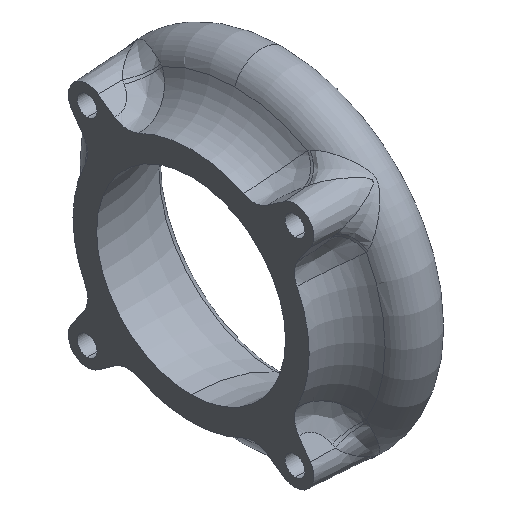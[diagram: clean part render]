
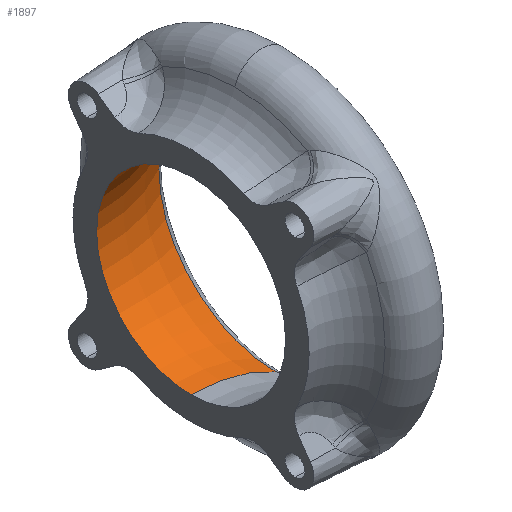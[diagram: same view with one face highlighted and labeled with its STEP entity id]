
A CAD part, isometric view. The second image highlights one B-rep face of the part: STEP entity #1897.
In plain terms, the highlighted toroidal (fillet/blend) face has major radius 56.125 mm and minor radius 36.125 mm.
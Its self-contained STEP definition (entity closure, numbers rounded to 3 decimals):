
#47 = CARTESIAN_POINT ( 'NONE',  ( 0., 0., 0. ) ) ;
#97 = DIRECTION ( 'NONE',  ( 0., 0., -1. ) ) ;
#130 = DIRECTION ( 'NONE',  ( 0., 1., 0. ) ) ;
#232 = AXIS2_PLACEMENT_3D ( 'NONE', #3342, #835, #1950 ) ;
#294 = ORIENTED_EDGE ( 'NONE', *, *, #2557, .T. ) ;
#344 = AXIS2_PLACEMENT_3D ( 'NONE', #1020, #2138, #3258 ) ;
#409 = CARTESIAN_POINT ( 'NONE',  ( 0., 0., -20. ) ) ;
#480 = ORIENTED_EDGE ( 'NONE', *, *, #3618, .T. ) ;
#580 = CIRCLE ( 'NONE', #2628, 36.125 ) ;
#835 = DIRECTION ( 'NONE',  ( 0., 1., 0. ) ) ;
#993 = CIRCLE ( 'NONE', #3043, 24.797 ) ;
#1020 = CARTESIAN_POINT ( 'NONE',  ( 0., 0., 0. ) ) ;
#1037 = ORIENTED_EDGE ( 'NONE', *, *, #1504, .F. ) ;
#1145 = EDGE_CURVE ( 'NONE', #1613, #2196, #3152, .T. ) ;
#1295 = FACE_OUTER_BOUND ( 'NONE', #1918, .T. ) ;
#1483 = CARTESIAN_POINT ( 'NONE',  ( 0., 0., -56.125 ) ) ;
#1504 = EDGE_CURVE ( 'NONE', #2529, #1613, #580, .T. ) ;
#1519 = CARTESIAN_POINT ( 'NONE',  ( 17.988, 0., 0. ) ) ;
#1565 = AXIS2_PLACEMENT_3D ( 'NONE', #47, #2009, #3128 ) ;
#1613 = VERTEX_POINT ( 'NONE', #409 ) ;
#1814 = CIRCLE ( 'NONE', #232, 36.125 ) ;
#1816 = VERTEX_POINT ( 'NONE', #3229 ) ;
#1897 = ADVANCED_FACE ( 'NONE', ( #1295 ), #3504, .T. ) ;
#1918 = EDGE_LOOP ( 'NONE', ( #480, #294, #3265, #1037 ) ) ;
#1950 = DIRECTION ( 'NONE',  ( 0., 0., 1. ) ) ;
#1990 = CARTESIAN_POINT ( 'NONE',  ( 0., 0., 20. ) ) ;
#2009 = DIRECTION ( 'NONE',  ( 1., 0., 0. ) ) ;
#2138 = DIRECTION ( 'NONE',  ( 1., 0., 0. ) ) ;
#2196 = VERTEX_POINT ( 'NONE', #1990 ) ;
#2529 = VERTEX_POINT ( 'NONE', #2763 ) ;
#2557 = EDGE_CURVE ( 'NONE', #1816, #2196, #1814, .T. ) ;
#2607 = DIRECTION ( 'NONE',  ( 0., -1., 0. ) ) ;
#2628 = AXIS2_PLACEMENT_3D ( 'NONE', #1483, #2607, #97 ) ;
#2642 = DIRECTION ( 'NONE',  ( 1., 0., 0. ) ) ;
#2763 = CARTESIAN_POINT ( 'NONE',  ( 17.988, 0., -24.797 ) ) ;
#3043 = AXIS2_PLACEMENT_3D ( 'NONE', #1519, #2642, #130 ) ;
#3128 = DIRECTION ( 'NONE',  ( 0., 1., 0. ) ) ;
#3152 = CIRCLE ( 'NONE', #1565, 20. ) ;
#3229 = CARTESIAN_POINT ( 'NONE',  ( 17.988, 0., 24.797 ) ) ;
#3258 = DIRECTION ( 'NONE',  ( 0., 0., -1. ) ) ;
#3265 = ORIENTED_EDGE ( 'NONE', *, *, #1145, .F. ) ;
#3342 = CARTESIAN_POINT ( 'NONE',  ( 0., 0., 56.125 ) ) ;
#3504 = TOROIDAL_SURFACE ( 'NONE', #344, 56.125, 36.125 ) ;
#3618 = EDGE_CURVE ( 'NONE', #2529, #1816, #993, .T. ) ;
